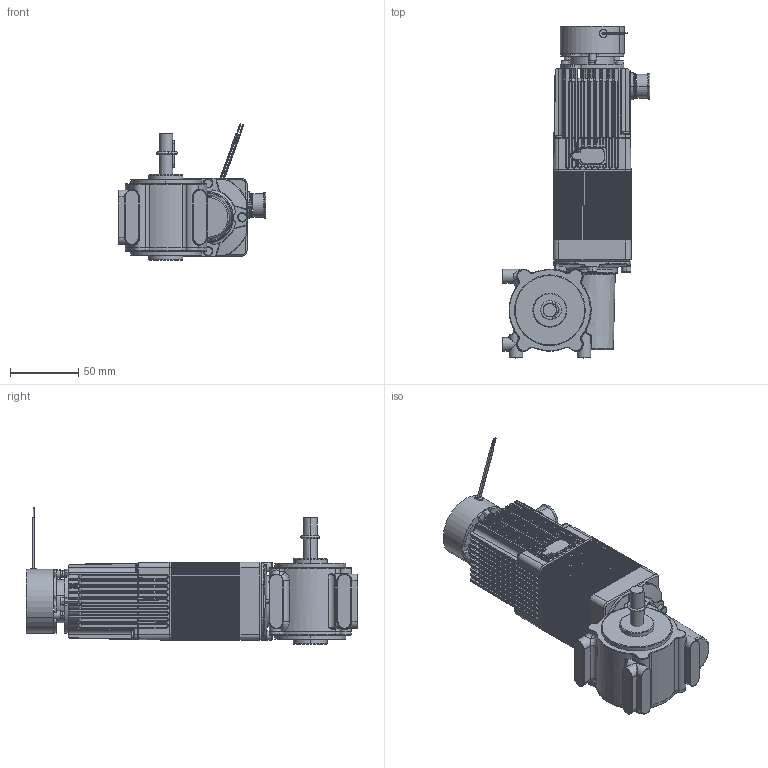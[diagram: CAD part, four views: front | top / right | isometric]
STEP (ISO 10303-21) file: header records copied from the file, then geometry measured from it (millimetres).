
FILE_DESCRIPTION((''),'2;1');
FILE_NAME('ENV_SIMP_STEP_TEMP','2012-10-24T',('VALJBL1'),('CROUZET-AUTOMATISMES'),'PRO/ENGINEER BY PARAMETRIC TECHNOLOGY CORPORATION, 2012090','PRO/ENGINEER BY PARAMETRIC TECHNOLOGY CORPORATION, 2012090','');
FILE_SCHEMA(('CONFIG_CONTROL_DESIGN'));
Products named in the file (1): ENV_SIMP_STEP_TEMP
Bounding box: 108.35 x 243.65 x 100.12 mm (x, y, z)
Surface area: 137376.5 mm2 (no closed solid volume)
Topology: 0 solids, 239 shells, 3543 faces, 10678 edges, 7245 vertices
Faces by surface type: cylinder 1647, plane 1472, torus 141, bspline 135, sphere 122, cone 26
Entity records: 130609 total; most frequent: CARTESIAN_POINT 39731, DIRECTION 18803, ORIENTED_EDGE 16810, EDGE_CURVE 10678, VERTEX_POINT 7245, AXIS2_PLACEMENT_3D 6361, VECTOR 6081, LINE 6081
